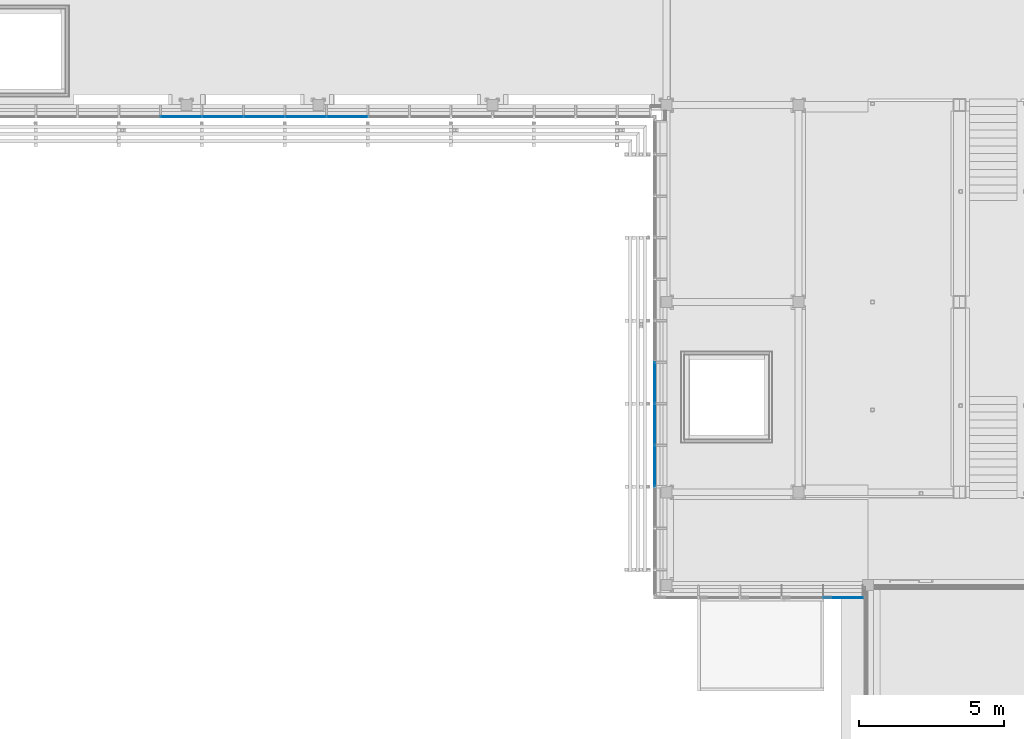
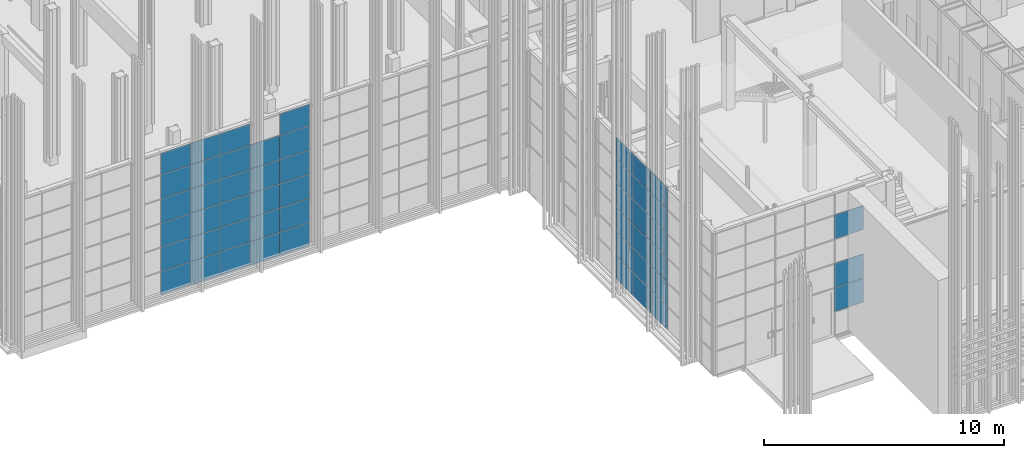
# One storey, part 52 of 260: 50 plates, 1 element without a shape of its own.
"""IFC2X3 building model written with IfcOpenShell, lengths in millimetres."""

from ifc_helpers import new_model, entity, si_unit, converted_unit, derived_unit, money_unit, direction, frame, origin_with_axes, place, context, subcontext, project, spatial, faceted_brep, source, transform, mapped, material, type_object, element, aggregate, save


model = new_model("IFC2X3")

# Units and contexts
model_context = context("Model", 3, precision=0.01, world=origin_with_axes(), true_north=direction((0.0, 1.0)))
body_context = subcontext(model_context, "Body", "Model", "MODEL_VIEW")
ifc_project = project(units=[si_unit("LENGTHUNIT", "METRE", prefix="MILLI"), si_unit("AREAUNIT", "SQUARE_METRE"), si_unit("VOLUMEUNIT", "CUBIC_METRE"), converted_unit("PLANEANGLEUNIT", "DEGREE", entity("IfcPlaneAngleMeasure", 0.0174532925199), si_unit("PLANEANGLEUNIT", "RADIAN"), dimensions=[0, 0, 0, 0, 0, 0, 0]), money_unit("EUR"), converted_unit("TIMEUNIT", "Year", entity("IfcTimeMeasure", 31556926.0), si_unit("TIMEUNIT", "SECOND"), dimensions=[0, 0, 1, 0, 0, 0, 0]), si_unit("MASSUNIT", "GRAM", prefix="KILO"), si_unit("THERMODYNAMICTEMPERATUREUNIT", "DEGREE_CELSIUS"), si_unit("LUMINOUSINTENSITYUNIT", "LUMEN"), si_unit("ENERGYUNIT", "JOULE", prefix="MEGA"), derived_unit("THERMALCONDUCTANCEUNIT", [(si_unit("POWERUNIT", "WATT"), 1), (si_unit("LENGTHUNIT", "METRE"), -1), (si_unit("THERMODYNAMICTEMPERATUREUNIT", "KELVIN"), -1)]), derived_unit("SPECIFICHEATCAPACITYUNIT", [(si_unit("ENERGYUNIT", "JOULE"), 1), (si_unit("MASSUNIT", "GRAM", prefix="KILO"), -1), (si_unit("THERMODYNAMICTEMPERATUREUNIT", "KELVIN"), -1)]), derived_unit("MASSDENSITYUNIT", [(si_unit("MASSUNIT", "GRAM", prefix="KILO"), 1), (si_unit("VOLUMEUNIT", "CUBIC_METRE"), -1)])], contexts=[model_context])

# Site, building, storey
site_placement = place(None, origin_with_axes())
site = spatial("IfcSite", under=ifc_project, at=site_placement, Name="Kolde pst 67a", CompositionType="ELEMENT")
building_placement = place(site_placement, origin_with_axes())
building = spatial("IfcBuilding", under=site, at=building_placement, Name="Riigigümnaasium", CompositionType="ELEMENT")
storey_placement = place(building_placement, origin_with_axes())
storey = spatial("IfcBuildingStorey", under=building, at=storey_placement, Name="1. korrus", CompositionType="ELEMENT", Elevation=0.0)

# Curtain wall, plates
curtain_wall_type = type_object("IfcCurtainWallType", Name="Curtain Wall Type", PredefinedType="NOTDEFINED")
curtain_wall_placement = place(storey_placement, frame((47829.9854655, 8727.77020058, -0.000749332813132), z_axis=(0.0, 0.0, 1.0), x_axis=(1.0, 0.0, 0.0)))
curtain_wall = element("IfcCurtainWall", 1, at=curtain_wall_placement, inside=storey, type_object=curtain_wall_type, Name="KLAASFASSAAD")
ifc_material = material(Name="_KLAAS - kirgas")
plate_type_1 = type_object("IfcPlateType", Name="Main Panel 72 x 1195 x 33", PredefinedType="NOTDEFINED")
shared_shape_1 = source(origin_with_axes(), body_context, "Body", "Brep", [
    faceted_brep([(-2777.75197811, 1225.00067812, -16.5), (-2777.75197811, 1225.00067812, 16.5), (-1430.00000069, 1225.00067812, 16.5), (-1430.00000069, 1225.00067812, -16.5), (-2777.75199941, 30.0000019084, -16.5), (-2777.75199941, 30.0000019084, 16.5), (-1430.00000069, 30.0000019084, 16.5), (-1357.75198011, 30.0000019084, 16.5), (-1357.75198011, 1225.00067812, 16.5), (-1357.75198011, 1225.00067812, -16.5), (-1357.75198011, 30.0000019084, -16.5), (-1430.00000069, 30.0000019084, -16.5)], [[[0, 1, 2, 3]], [[4, 5, 1, 0]], [[1, 5, 6, 7, 8, 2]], [[3, 2, 8, 9]], [[0, 3, 9, 10, 11, 4]], [[11, 6, 5, 4]], [[10, 7, 6, 11]], [[9, 8, 7, 10]]]),
])
plate_1_placement = place(curtain_wall_placement, frame((-2.60832422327e-06, 2861.20707608, 615.000374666), z_axis=(0.0, 0.0, 1.0), x_axis=(9.1161639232e-10, -1.0, 0.0)))
plate_1 = element("IfcPlate", 2, at=plate_1_placement, type_object=plate_type_1, material=ifc_material, Name="RF PANEEL PEAMINE-010", context=body_context, shape_type="MappedRepresentation", body=[
    mapped(shared_shape_1, transform((1855.16799141, 0.0, -615.000374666), x_axis=(1.0, 0.0, 0.0), y_axis=(0.0, 0.0, 1.0), z_axis=(0.0, -1.0, 0.0))),
])
plate_2_placement = place(curtain_wall_placement, frame((-3.91193566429e-06, 4291.2070799, 615.000374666), z_axis=(0.0, 0.0, 1.0), x_axis=(9.11611423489e-10, -1.0, 0.0)))
plate_2 = element("IfcPlate", 3, at=plate_2_placement, type_object=plate_type_1, material=ifc_material, Name="RF PANEEL PEAMINE-010", context=body_context, shape_type="MappedRepresentation", body=[
    mapped(shared_shape_1, transform((1855.16799523, 0.0, -615.000374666), x_axis=(1.0, 0.0, 0.0), y_axis=(0.0, 0.0, 1.0), z_axis=(0.0, -1.0, 0.0))),
])
plate_3_placement = place(curtain_wall_placement, frame((-5.21555421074e-06, 5721.20708506, 615.000374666), z_axis=(0.0, 0.0, 1.0), x_axis=(9.1161639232e-10, -1.0, 0.0)))
plate_3 = element("IfcPlate", 4, at=plate_3_placement, type_object=plate_type_1, material=ifc_material, Name="RF PANEEL PEAMINE-010", context=body_context, shape_type="MappedRepresentation", body=[
    mapped(shared_shape_1, transform((1855.16800039, 0.0, -615.000374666), x_axis=(1.0, 0.0, 0.0), y_axis=(0.0, 0.0, 1.0), z_axis=(0.0, -1.0, 0.0))),
])
plate_type_2 = type_object("IfcPlateType", Name="Main Panel 72 x 1220 x 33", PredefinedType="NOTDEFINED")
shared_shape_2 = source(origin_with_axes(), body_context, "Body", "Brep", [
    faceted_brep([(-2777.75198662, 1225.00000656, -16.5), (-2777.75198662, 1225.00000656, 16.5), (-1430.0, 1225.00000656, 16.5), (-1430.0, 1225.00000656, -16.5), (-2777.75198662, 4.99999672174, -16.5), (-2777.75198662, 4.99999672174, 16.5), (-1430.0, 4.99999672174, 16.5), (-1357.75198007, 4.99999672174, 16.5), (-1357.75198007, 1225.00000656, 16.5), (-1357.75198007, 1225.00000656, -16.5), (-1357.75198007, 4.99999672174, -16.5), (-1430.0, 4.99999672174, -16.5)], [[[0, 1, 2, 3]], [[4, 5, 1, 0]], [[1, 5, 6, 7, 8, 2]], [[3, 2, 8, 9]], [[0, 3, 9, 10, 11, 4]], [[11, 6, 5, 4]], [[10, 7, 6, 11]], [[9, 8, 7, 10]]]),
])
plate_4_placement = place(curtain_wall_placement, frame((-2.60832422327e-06, 2861.20707357, 1845.00074933), z_axis=(0.0, 0.0, 1.0), x_axis=(9.1161639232e-10, -1.0, 0.0)))
plate_4 = element("IfcPlate", 5, at=plate_4_placement, type_object=plate_type_2, material=ifc_material, Name="RF PANEEL PEAMINE-010", context=body_context, shape_type="MappedRepresentation", body=[
    mapped(shared_shape_2, transform((1855.1679889, 0.0, -615.0), x_axis=(1.0, 0.0, 0.0), y_axis=(0.0, 0.0, 1.0), z_axis=(0.0, -1.0, 0.0))),
])
plate_5_placement = place(curtain_wall_placement, frame((-2.60832422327e-06, 2861.20707357, 3075.00074933), z_axis=(0.0, 0.0, 1.0), x_axis=(9.1161639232e-10, -1.0, 0.0)))
plate_5 = element("IfcPlate", 6, at=plate_5_placement, type_object=plate_type_2, material=ifc_material, Name="RF PANEEL PEAMINE-010", context=body_context, shape_type="MappedRepresentation", body=[
    mapped(shared_shape_2, transform((1855.1679889, 0.0, -615.0), x_axis=(1.0, 0.0, 0.0), y_axis=(0.0, 0.0, 1.0), z_axis=(0.0, -1.0, 0.0))),
])
plate_6_placement = place(curtain_wall_placement, frame((-3.91193566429e-06, 4291.20708067, 1845.00074933), z_axis=(0.0, 0.0, 1.0), x_axis=(9.11611423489e-10, -1.0, 0.0)))
plate_6 = element("IfcPlate", 7, at=plate_6_placement, type_object=plate_type_2, material=ifc_material, Name="RF PANEEL PEAMINE-010", context=body_context, shape_type="MappedRepresentation", body=[
    mapped(shared_shape_2, transform((1855.167996, 0.0, -615.0), x_axis=(1.0, 0.0, 0.0), y_axis=(0.0, 0.0, 1.0), z_axis=(0.0, -1.0, 0.0))),
])
plate_7_placement = place(curtain_wall_placement, frame((-3.91193566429e-06, 4291.20708067, 3075.00074933), z_axis=(0.0, 0.0, 1.0), x_axis=(9.11611423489e-10, -1.0, 0.0)))
plate_7 = element("IfcPlate", 8, at=plate_7_placement, type_object=plate_type_2, material=ifc_material, Name="RF PANEEL PEAMINE-010", context=body_context, shape_type="MappedRepresentation", body=[
    mapped(shared_shape_2, transform((1855.167996, 0.0, -615.0), x_axis=(1.0, 0.0, 0.0), y_axis=(0.0, 0.0, 1.0), z_axis=(0.0, -1.0, 0.0))),
])
plate_8_placement = place(curtain_wall_placement, frame((-5.21555421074e-06, 5721.20708777, 1845.00074933), z_axis=(0.0, 0.0, 1.0), x_axis=(9.1161639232e-10, -1.0, 0.0)))
plate_8 = element("IfcPlate", 9, at=plate_8_placement, type_object=plate_type_2, material=ifc_material, Name="RF PANEEL PEAMINE-010", context=body_context, shape_type="MappedRepresentation", body=[
    mapped(shared_shape_2, transform((1855.1680031, 0.0, -615.0), x_axis=(1.0, 0.0, 0.0), y_axis=(0.0, 0.0, 1.0), z_axis=(0.0, -1.0, 0.0))),
])
plate_9_placement = place(curtain_wall_placement, frame((-5.21555421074e-06, 5721.20708777, 3075.00074933), z_axis=(0.0, 0.0, 1.0), x_axis=(9.1161639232e-10, -1.0, 0.0)))
plate_9 = element("IfcPlate", 10, at=plate_9_placement, type_object=plate_type_2, material=ifc_material, Name="RF PANEEL PEAMINE-010", context=body_context, shape_type="MappedRepresentation", body=[
    mapped(shared_shape_2, transform((1855.1680031, 0.0, -615.0), x_axis=(1.0, 0.0, 0.0), y_axis=(0.0, 0.0, 1.0), z_axis=(0.0, -1.0, 0.0))),
])
plate_10_placement = place(curtain_wall_placement, frame((-2.60832422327e-06, 2861.20707712, 5535.00074933), z_axis=(0.0, 0.0, 1.0), x_axis=(9.1161639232e-10, -1.0, 0.0)))
plate_10 = element("IfcPlate", 11, at=plate_10_placement, type_object=plate_type_2, material=ifc_material, Name="RF PANEEL PEAMINE-049", context=body_context, shape_type="MappedRepresentation", body=[
    mapped(shared_shape_2, transform((1855.16799245, 0.0, -615.0), x_axis=(1.0, 0.0, 0.0), y_axis=(0.0, 0.0, 1.0), z_axis=(0.0, -1.0, 0.0))),
])
plate_11_placement = place(curtain_wall_placement, frame((-3.91193566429e-06, 4291.20708067, 5535.00074933), z_axis=(0.0, 0.0, 1.0), x_axis=(9.11611423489e-10, -1.0, 0.0)))
plate_11 = element("IfcPlate", 12, at=plate_11_placement, type_object=plate_type_2, material=ifc_material, Name="RF PANEEL PEAMINE-051", context=body_context, shape_type="MappedRepresentation", body=[
    mapped(shared_shape_2, transform((1855.167996, 0.0, -615.0), x_axis=(1.0, 0.0, 0.0), y_axis=(0.0, 0.0, 1.0), z_axis=(0.0, -1.0, 0.0))),
])
plate_12_placement = place(curtain_wall_placement, frame((-5.21555421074e-06, 5721.20708067, 5535.00074933), z_axis=(0.0, 0.0, 1.0), x_axis=(9.1161639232e-10, -1.0, 0.0)))
plate_12 = element("IfcPlate", 13, at=plate_12_placement, type_object=plate_type_2, material=ifc_material, Name="RF PANEEL PEAMINE-053", context=body_context, shape_type="MappedRepresentation", body=[
    mapped(shared_shape_2, transform((1855.167996, 0.0, -615.0), x_axis=(1.0, 0.0, 0.0), y_axis=(0.0, 0.0, 1.0), z_axis=(0.0, -1.0, 0.0))),
])
plate_13_placement = place(curtain_wall_placement, frame((-5.21555421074e-06, 5721.20708777, 4305.00074933), z_axis=(0.0, 0.0, 1.0), x_axis=(9.1161639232e-10, -1.0, 0.0)))
plate_13 = element("IfcPlate", 14, at=plate_13_placement, type_object=plate_type_2, material=ifc_material, Name="RF PANEEL PEAMINE-037", context=body_context, shape_type="MappedRepresentation", body=[
    mapped(shared_shape_2, transform((1855.1680031, 0.0, -615.0), x_axis=(1.0, 0.0, 0.0), y_axis=(0.0, 0.0, 1.0), z_axis=(0.0, -1.0, 0.0))),
])
plate_14_placement = place(curtain_wall_placement, frame((-3.91193566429e-06, 4291.20708422, 4305.00074933), z_axis=(0.0, 0.0, 1.0), x_axis=(9.11611423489e-10, -1.0, 0.0)))
plate_14 = element("IfcPlate", 15, at=plate_14_placement, type_object=plate_type_2, material=ifc_material, Name="RF PANEEL PEAMINE-036", context=body_context, shape_type="MappedRepresentation", body=[
    mapped(shared_shape_2, transform((1855.16799955, 0.0, -615.0), x_axis=(1.0, 0.0, 0.0), y_axis=(0.0, 0.0, 1.0), z_axis=(0.0, -1.0, 0.0))),
])
plate_15_placement = place(curtain_wall_placement, frame((-2.60832422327e-06, 2861.20707712, 4305.00074933), z_axis=(0.0, 0.0, 1.0), x_axis=(9.1161639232e-10, -1.0, 0.0)))
plate_15 = element("IfcPlate", 16, at=plate_15_placement, type_object=plate_type_2, material=ifc_material, Name="RF PANEEL PEAMINE-035", context=body_context, shape_type="MappedRepresentation", body=[
    mapped(shared_shape_2, transform((1855.16799245, 0.0, -615.0), x_axis=(1.0, 0.0, 0.0), y_axis=(0.0, 0.0, 1.0), z_axis=(0.0, -1.0, 0.0))),
])
plate_type_3 = type_object("IfcPlateType", Name="Main Panel 1086 x 1220 x 33", PredefinedType="NOTDEFINED")
shared_shape_3 = source(origin_with_axes(), body_context, "Body", "Brep", [
    faceted_brep([(-1727.90832679, 1224.99999401, -16.5), (-1727.90832679, 1224.99999401, 16.5), (-1429.99999361, 1224.99999401, 16.5), (-1429.99999361, 1224.99999401, -16.5), (-1727.90834793, 5.00000506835, -16.5), (-1727.90834793, 5.00000506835, 16.5), (-1429.99999361, 5.00000506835, 16.5), (-343.684158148, 5.00000506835, 16.5), (-343.684158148, 1224.99999401, 16.5), (-343.684158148, 1224.99999401, -16.5), (-343.684158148, 5.00000506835, -16.5), (-1429.99999361, 5.00000506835, -16.5)], [[[0, 1, 2, 3]], [[4, 5, 1, 0]], [[1, 5, 6, 7, 8, 2]], [[3, 2, 8, 9]], [[0, 3, 9, 10, 11, 4]], [[11, 6, 5, 4]], [[10, 7, 6, 11]], [[9, 8, 7, 10]]]),
])
plate_16_placement = place(curtain_wall_placement, frame((6374.70142058, -1457.77182686, 1845.00074933), z_axis=(0.0, 0.0, 1.0), x_axis=(1.0, -2.70881141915e-07, 0.0)))
plate_16 = element("IfcPlate", 17, at=plate_16_placement, type_object=plate_type_3, material=ifc_material, Name="RF PANEEL PEAMINE-010", context=body_context, shape_type="MappedRepresentation", body=[
    mapped(shared_shape_3, transform((1158.86416374, 0.0, -615.0), x_axis=(1.0, 1.88106250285e-10, 0.0), y_axis=(0.0, 0.0, 1.0), z_axis=(1.88106250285e-10, -1.0, 0.0))),
])
plate_17_placement = place(curtain_wall_placement, frame((6374.70142413, -1457.77182686, 3075.00074933), z_axis=(0.0, 0.0, 1.0), x_axis=(1.0, -2.70881141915e-07, 0.0)))
plate_17 = element("IfcPlate", 18, at=plate_17_placement, type_object=plate_type_3, material=ifc_material, Name="RF PANEEL PEAMINE-010", context=body_context, shape_type="MappedRepresentation", body=[
    mapped(shared_shape_3, transform((1158.86416019, 0.0, -615.0), x_axis=(1.0, 1.88106250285e-10, 0.0), y_axis=(0.0, 0.0, 1.0), z_axis=(1.88106250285e-10, -1.0, 0.0))),
])
plate_18_placement = place(curtain_wall_placement, frame((6374.70142058, -1457.77182686, 5535.00074933), z_axis=(0.0, 0.0, 1.0), x_axis=(1.0, -2.70881141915e-07, 0.0)))
plate_18 = element("IfcPlate", 19, at=plate_18_placement, type_object=plate_type_3, material=ifc_material, Name="RF PANEEL PEAMINE-022", context=body_context, shape_type="MappedRepresentation", body=[
    mapped(shared_shape_3, transform((1158.86416374, 0.0, -615.0), x_axis=(1.0, 1.88106250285e-10, 0.0), y_axis=(0.0, 0.0, 1.0), z_axis=(1.88106250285e-10, -1.0, 0.0))),
])
plate_type_4 = type_object("IfcPlateType", Name="Main Panel 1420 x 1195 x 33", PredefinedType="NOTDEFINED")
shared_shape_4 = source(origin_with_axes(), body_context, "Body", "Brep", [
    faceted_brep([(-1425.00000328, 1225.00045404, -16.5), (-1425.00000328, 1225.00045404, 16.5), (-4.99999672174, 1225.00045404, 16.5), (-4.99999672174, 1225.00045404, -16.5), (-1425.00000328, 30.0000016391, -16.5), (-1425.00000328, 30.0000016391, 16.5), (-4.99999672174, 30.0000016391, 16.5), (-4.99999672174, 30.0000016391, -16.5)], [[[0, 1, 2, 3]], [[4, 5, 1, 0]], [[1, 5, 6, 2]], [[3, 2, 6, 7]], [[0, 3, 7, 4]], [[7, 6, 5, 4]]]),
])
plate_19_placement = place(curtain_wall_placement, frame((-10587.4150636, 15102.3507558, 615.000517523), z_axis=(0.0, 0.0, 1.0), x_axis=(0.999999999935, -1.1410815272e-05, 0.0)))
plate_19 = element("IfcPlate", 20, at=plate_19_placement, type_object=plate_type_4, material=ifc_material, Name="RF PANEEL PEAMINE-125", context=body_context, shape_type="MappedRepresentation", body=[
    mapped(shared_shape_4, transform((715.0, 0.0, -615.00023181), x_axis=(1.0, 0.0, 0.0), y_axis=(0.0, 0.0, 1.0), z_axis=(0.0, -1.0, 0.0))),
])
plate_20_placement = place(curtain_wall_placement, frame((-12017.4150635, 15102.3670733, 615.000517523), z_axis=(0.0, 0.0, 1.0), x_axis=(0.999999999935, -1.14108152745e-05, 0.0)))
plate_20 = element("IfcPlate", 21, at=plate_20_placement, type_object=plate_type_4, material=ifc_material, Name="RF PANEEL PEAMINE-131", context=body_context, shape_type="MappedRepresentation", body=[
    mapped(shared_shape_4, transform((715.0, 0.0, -615.00023181), x_axis=(1.0, 0.0, 0.0), y_axis=(0.0, 0.0, 1.0), z_axis=(0.0, -1.0, 0.0))),
])
plate_21_placement = place(curtain_wall_placement, frame((-13447.4150634, 15102.3833908, 615.000517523), z_axis=(0.0, 0.0, 1.0), x_axis=(0.999999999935, -1.1410815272e-05, 0.0)))
plate_21 = element("IfcPlate", 22, at=plate_21_placement, type_object=plate_type_4, material=ifc_material, Name="RF PANEEL PEAMINE-137", context=body_context, shape_type="MappedRepresentation", body=[
    mapped(shared_shape_4, transform((715.0, 0.0, -615.00023181), x_axis=(1.0, 0.0, 0.0), y_axis=(0.0, 0.0, 1.0), z_axis=(0.0, -1.0, 0.0))),
])
plate_22_placement = place(curtain_wall_placement, frame((-14877.4150634, 15102.3997082, 615.000517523), z_axis=(0.0, 0.0, 1.0), x_axis=(0.999999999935, -1.14108152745e-05, 0.0)))
plate_22 = element("IfcPlate", 23, at=plate_22_placement, type_object=plate_type_4, material=ifc_material, Name="RF PANEEL PEAMINE-143", context=body_context, shape_type="MappedRepresentation", body=[
    mapped(shared_shape_4, transform((715.0, 0.0, -615.00023181), x_axis=(1.0, 0.0, 0.0), y_axis=(0.0, 0.0, 1.0), z_axis=(0.0, -1.0, 0.0))),
])
plate_23_placement = place(curtain_wall_placement, frame((-16307.4150633, 15102.4160257, 615.000517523), z_axis=(0.0, 0.0, 1.0), x_axis=(0.999999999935, -1.1410815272e-05, 0.0)))
plate_23 = element("IfcPlate", 24, at=plate_23_placement, type_object=plate_type_4, material=ifc_material, Name="RF PANEEL PEAMINE-149", context=body_context, shape_type="MappedRepresentation", body=[
    mapped(shared_shape_4, transform((715.0, 0.0, -615.00023181), x_axis=(1.0, 0.0, 0.0), y_axis=(0.0, 0.0, 1.0), z_axis=(0.0, -1.0, 0.0))),
])
plate_type_5 = type_object("IfcPlateType", Name="Main Panel 1420 x 1220 x 33", PredefinedType="NOTDEFINED")
shared_shape_5 = source(origin_with_axes(), body_context, "Body", "Brep", [
    faceted_brep([(-1425.00000328, 1225.00000656, -16.5), (-1425.00000328, 1225.00000656, 16.5), (-4.99999672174, 1225.00000656, 16.5), (-4.99999672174, 1225.00000656, -16.5), (-1425.00000328, 4.99999672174, -16.5), (-1425.00000328, 4.99999672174, 16.5), (-4.99999672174, 4.99999672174, 16.5), (-4.99999672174, 4.99999672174, -16.5)], [[[0, 1, 2, 3]], [[4, 5, 1, 0]], [[1, 5, 6, 2]], [[3, 2, 6, 7]], [[0, 3, 7, 4]], [[7, 6, 5, 4]]]),
])
plate_24_placement = place(curtain_wall_placement, frame((-10587.4150636, 15102.3507558, 1845.00074933), z_axis=(0.0, 0.0, 1.0), x_axis=(0.999999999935, -1.1410815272e-05, 0.0)))
plate_24 = element("IfcPlate", 25, at=plate_24_placement, type_object=plate_type_5, material=ifc_material, Name="RF PANEEL PEAMINE-126", context=body_context, shape_type="MappedRepresentation", body=[
    mapped(shared_shape_5, transform((715.0, 0.0, -615.0), x_axis=(1.0, 0.0, 0.0), y_axis=(0.0, 0.0, 1.0), z_axis=(0.0, -1.0, 0.0))),
])
plate_25_placement = place(curtain_wall_placement, frame((-10587.4150636, 15102.3507558, 3075.00074933), z_axis=(0.0, 0.0, 1.0), x_axis=(0.999999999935, -1.1410815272e-05, 0.0)))
plate_25 = element("IfcPlate", 26, at=plate_25_placement, type_object=plate_type_5, material=ifc_material, Name="RF PANEEL PEAMINE-127", context=body_context, shape_type="MappedRepresentation", body=[
    mapped(shared_shape_5, transform((715.0, 0.0, -615.0), x_axis=(1.0, 0.0, 0.0), y_axis=(0.0, 0.0, 1.0), z_axis=(0.0, -1.0, 0.0))),
])
plate_26_placement = place(curtain_wall_placement, frame((-10587.4150636, 15102.3507558, 4305.00074933), z_axis=(0.0, 0.0, 1.0), x_axis=(0.999999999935, -1.1410815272e-05, 0.0)))
plate_26 = element("IfcPlate", 27, at=plate_26_placement, type_object=plate_type_5, material=ifc_material, Name="RF PANEEL PEAMINE-128", context=body_context, shape_type="MappedRepresentation", body=[
    mapped(shared_shape_5, transform((715.0, 0.0, -615.0), x_axis=(1.0, 0.0, 0.0), y_axis=(0.0, 0.0, 1.0), z_axis=(0.0, -1.0, 0.0))),
])
plate_27_placement = place(curtain_wall_placement, frame((-10587.4150636, 15102.3507558, 5535.00074933), z_axis=(0.0, 0.0, 1.0), x_axis=(0.999999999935, -1.1410815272e-05, 0.0)))
plate_27 = element("IfcPlate", 28, at=plate_27_placement, type_object=plate_type_5, material=ifc_material, Name="RF PANEEL PEAMINE-129", context=body_context, shape_type="MappedRepresentation", body=[
    mapped(shared_shape_5, transform((715.0, 0.0, -615.0), x_axis=(1.0, 0.0, 0.0), y_axis=(0.0, 0.0, 1.0), z_axis=(0.0, -1.0, 0.0))),
])
plate_28_placement = place(curtain_wall_placement, frame((-12017.4150635, 15102.3670733, 1845.00074933), z_axis=(0.0, 0.0, 1.0), x_axis=(0.999999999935, -1.14108152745e-05, 0.0)))
plate_28 = element("IfcPlate", 29, at=plate_28_placement, type_object=plate_type_5, material=ifc_material, Name="RF PANEEL PEAMINE-132", context=body_context, shape_type="MappedRepresentation", body=[
    mapped(shared_shape_5, transform((715.0, 0.0, -615.0), x_axis=(1.0, 0.0, 0.0), y_axis=(0.0, 0.0, 1.0), z_axis=(0.0, -1.0, 0.0))),
])
plate_29_placement = place(curtain_wall_placement, frame((-12017.4150635, 15102.3670733, 3075.00074933), z_axis=(0.0, 0.0, 1.0), x_axis=(0.999999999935, -1.14108152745e-05, 0.0)))
plate_29 = element("IfcPlate", 30, at=plate_29_placement, type_object=plate_type_5, material=ifc_material, Name="RF PANEEL PEAMINE-133", context=body_context, shape_type="MappedRepresentation", body=[
    mapped(shared_shape_5, transform((715.0, 0.0, -615.0), x_axis=(1.0, 0.0, 0.0), y_axis=(0.0, 0.0, 1.0), z_axis=(0.0, -1.0, 0.0))),
])
plate_30_placement = place(curtain_wall_placement, frame((-12017.4150635, 15102.3670733, 4305.00074933), z_axis=(0.0, 0.0, 1.0), x_axis=(0.999999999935, -1.14108152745e-05, 0.0)))
plate_30 = element("IfcPlate", 31, at=plate_30_placement, type_object=plate_type_5, material=ifc_material, Name="RF PANEEL PEAMINE-134", context=body_context, shape_type="MappedRepresentation", body=[
    mapped(shared_shape_5, transform((715.0, 0.0, -615.0), x_axis=(1.0, 0.0, 0.0), y_axis=(0.0, 0.0, 1.0), z_axis=(0.0, -1.0, 0.0))),
])
plate_31_placement = place(curtain_wall_placement, frame((-12017.4150635, 15102.3670733, 5535.00074933), z_axis=(0.0, 0.0, 1.0), x_axis=(0.999999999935, -1.14108152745e-05, 0.0)))
plate_31 = element("IfcPlate", 32, at=plate_31_placement, type_object=plate_type_5, material=ifc_material, Name="RF PANEEL PEAMINE-135", context=body_context, shape_type="MappedRepresentation", body=[
    mapped(shared_shape_5, transform((715.0, 0.0, -615.0), x_axis=(1.0, 0.0, 0.0), y_axis=(0.0, 0.0, 1.0), z_axis=(0.0, -1.0, 0.0))),
])
plate_32_placement = place(curtain_wall_placement, frame((-13447.4150634, 15102.3833908, 1845.00074933), z_axis=(0.0, 0.0, 1.0), x_axis=(0.999999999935, -1.1410815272e-05, 0.0)))
plate_32 = element("IfcPlate", 33, at=plate_32_placement, type_object=plate_type_5, material=ifc_material, Name="RF PANEEL PEAMINE-138", context=body_context, shape_type="MappedRepresentation", body=[
    mapped(shared_shape_5, transform((715.0, 0.0, -615.0), x_axis=(1.0, 0.0, 0.0), y_axis=(0.0, 0.0, 1.0), z_axis=(0.0, -1.0, 0.0))),
])
plate_33_placement = place(curtain_wall_placement, frame((-13447.4150634, 15102.3833908, 3075.00074933), z_axis=(0.0, 0.0, 1.0), x_axis=(0.999999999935, -1.1410815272e-05, 0.0)))
plate_33 = element("IfcPlate", 34, at=plate_33_placement, type_object=plate_type_5, material=ifc_material, Name="RF PANEEL PEAMINE-139", context=body_context, shape_type="MappedRepresentation", body=[
    mapped(shared_shape_5, transform((715.0, 0.0, -615.0), x_axis=(1.0, 0.0, 0.0), y_axis=(0.0, 0.0, 1.0), z_axis=(0.0, -1.0, 0.0))),
])
plate_34_placement = place(curtain_wall_placement, frame((-13447.4150634, 15102.3833908, 4305.00074933), z_axis=(0.0, 0.0, 1.0), x_axis=(0.999999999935, -1.1410815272e-05, 0.0)))
plate_34 = element("IfcPlate", 35, at=plate_34_placement, type_object=plate_type_5, material=ifc_material, Name="RF PANEEL PEAMINE-140", context=body_context, shape_type="MappedRepresentation", body=[
    mapped(shared_shape_5, transform((715.0, 0.0, -615.0), x_axis=(1.0, 0.0, 0.0), y_axis=(0.0, 0.0, 1.0), z_axis=(0.0, -1.0, 0.0))),
])
plate_35_placement = place(curtain_wall_placement, frame((-13447.4150634, 15102.3833908, 5535.00074933), z_axis=(0.0, 0.0, 1.0), x_axis=(0.999999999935, -1.1410815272e-05, 0.0)))
plate_35 = element("IfcPlate", 36, at=plate_35_placement, type_object=plate_type_5, material=ifc_material, Name="RF PANEEL PEAMINE-141", context=body_context, shape_type="MappedRepresentation", body=[
    mapped(shared_shape_5, transform((715.0, 0.0, -615.0), x_axis=(1.0, 0.0, 0.0), y_axis=(0.0, 0.0, 1.0), z_axis=(0.0, -1.0, 0.0))),
])
plate_36_placement = place(curtain_wall_placement, frame((-14877.4150634, 15102.3997082, 1845.00074933), z_axis=(0.0, 0.0, 1.0), x_axis=(0.999999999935, -1.14108152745e-05, 0.0)))
plate_36 = element("IfcPlate", 37, at=plate_36_placement, type_object=plate_type_5, material=ifc_material, Name="RF PANEEL PEAMINE-144", context=body_context, shape_type="MappedRepresentation", body=[
    mapped(shared_shape_5, transform((715.0, 0.0, -615.0), x_axis=(1.0, 0.0, 0.0), y_axis=(0.0, 0.0, 1.0), z_axis=(0.0, -1.0, 0.0))),
])
plate_37_placement = place(curtain_wall_placement, frame((-14877.4150634, 15102.3997082, 3075.00074933), z_axis=(0.0, 0.0, 1.0), x_axis=(0.999999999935, -1.14108152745e-05, 0.0)))
plate_37 = element("IfcPlate", 38, at=plate_37_placement, type_object=plate_type_5, material=ifc_material, Name="RF PANEEL PEAMINE-145", context=body_context, shape_type="MappedRepresentation", body=[
    mapped(shared_shape_5, transform((715.0, 0.0, -615.0), x_axis=(1.0, 0.0, 0.0), y_axis=(0.0, 0.0, 1.0), z_axis=(0.0, -1.0, 0.0))),
])
plate_38_placement = place(curtain_wall_placement, frame((-14877.4150634, 15102.3997082, 4305.00074933), z_axis=(0.0, 0.0, 1.0), x_axis=(0.999999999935, -1.14108152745e-05, 0.0)))
plate_38 = element("IfcPlate", 39, at=plate_38_placement, type_object=plate_type_5, material=ifc_material, Name="RF PANEEL PEAMINE-146", context=body_context, shape_type="MappedRepresentation", body=[
    mapped(shared_shape_5, transform((715.0, 0.0, -615.0), x_axis=(1.0, 0.0, 0.0), y_axis=(0.0, 0.0, 1.0), z_axis=(0.0, -1.0, 0.0))),
])
plate_39_placement = place(curtain_wall_placement, frame((-14877.4150634, 15102.3997082, 5535.00074933), z_axis=(0.0, 0.0, 1.0), x_axis=(0.999999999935, -1.14108152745e-05, 0.0)))
plate_39 = element("IfcPlate", 40, at=plate_39_placement, type_object=plate_type_5, material=ifc_material, Name="RF PANEEL PEAMINE-147", context=body_context, shape_type="MappedRepresentation", body=[
    mapped(shared_shape_5, transform((715.0, 0.0, -615.0), x_axis=(1.0, 0.0, 0.0), y_axis=(0.0, 0.0, 1.0), z_axis=(0.0, -1.0, 0.0))),
])
plate_40_placement = place(curtain_wall_placement, frame((-16307.4150633, 15102.4160257, 1845.00074933), z_axis=(0.0, 0.0, 1.0), x_axis=(0.999999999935, -1.1410815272e-05, 0.0)))
plate_40 = element("IfcPlate", 41, at=plate_40_placement, type_object=plate_type_5, material=ifc_material, Name="RF PANEEL PEAMINE-150", context=body_context, shape_type="MappedRepresentation", body=[
    mapped(shared_shape_5, transform((715.0, 0.0, -615.0), x_axis=(1.0, 0.0, 0.0), y_axis=(0.0, 0.0, 1.0), z_axis=(0.0, -1.0, 0.0))),
])
plate_41_placement = place(curtain_wall_placement, frame((-16307.4150633, 15102.4160257, 3075.00074933), z_axis=(0.0, 0.0, 1.0), x_axis=(0.999999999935, -1.1410815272e-05, 0.0)))
plate_41 = element("IfcPlate", 42, at=plate_41_placement, type_object=plate_type_5, material=ifc_material, Name="RF PANEEL PEAMINE-151", context=body_context, shape_type="MappedRepresentation", body=[
    mapped(shared_shape_5, transform((715.0, 0.0, -615.0), x_axis=(1.0, 0.0, 0.0), y_axis=(0.0, 0.0, 1.0), z_axis=(0.0, -1.0, 0.0))),
])
plate_42_placement = place(curtain_wall_placement, frame((-16307.4150633, 15102.4160257, 4305.00074933), z_axis=(0.0, 0.0, 1.0), x_axis=(0.999999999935, -1.1410815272e-05, 0.0)))
plate_42 = element("IfcPlate", 43, at=plate_42_placement, type_object=plate_type_5, material=ifc_material, Name="RF PANEEL PEAMINE-152", context=body_context, shape_type="MappedRepresentation", body=[
    mapped(shared_shape_5, transform((715.0, 0.0, -615.0), x_axis=(1.0, 0.0, 0.0), y_axis=(0.0, 0.0, 1.0), z_axis=(0.0, -1.0, 0.0))),
])
plate_43_placement = place(curtain_wall_placement, frame((-16307.4150633, 15102.4160257, 5535.00074933), z_axis=(0.0, 0.0, 1.0), x_axis=(0.999999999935, -1.1410815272e-05, 0.0)))
plate_43 = element("IfcPlate", 44, at=plate_43_placement, type_object=plate_type_5, material=ifc_material, Name="RF PANEEL PEAMINE-153", context=body_context, shape_type="MappedRepresentation", body=[
    mapped(shared_shape_5, transform((715.0, 0.0, -615.0), x_axis=(1.0, 0.0, 0.0), y_axis=(0.0, 0.0, 1.0), z_axis=(0.0, -1.0, 0.0))),
])
plate_type_6 = type_object("IfcPlateType", Name="Main Panel 1420 x 1075 x 33", PredefinedType="NOTDEFINED")
shared_shape_6 = source(origin_with_axes(), body_context, "Body", "Brep", [
    faceted_brep([(-1425.00000328, 1079.99918535, -16.5), (-1425.00000328, 1079.99918535, 16.5), (-4.99999672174, 1079.99918535, 16.5), (-4.99999672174, 1079.99918535, -16.5), (-1425.00000328, 4.99999672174, -16.5), (-1425.00000328, 4.99999672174, 16.5), (-4.99999672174, 4.99999672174, 16.5), (-4.99999672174, 4.99999672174, -16.5)], [[[0, 1, 2, 3]], [[4, 5, 1, 0]], [[1, 5, 6, 2]], [[3, 2, 6, 7]], [[0, 3, 7, 4]], [[7, 6, 5, 4]]]),
])
plate_44_placement = place(curtain_wall_placement, frame((-10587.4150636, 15102.3507558, 6705.00033834), z_axis=(0.0, 0.0, 1.0), x_axis=(0.999999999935, -1.1410815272e-05, 0.0)))
plate_44 = element("IfcPlate", 45, at=plate_44_placement, type_object=plate_type_6, material=ifc_material, Name="RF PANEEL PEAMINE-166", context=body_context, shape_type="MappedRepresentation", body=[
    mapped(shared_shape_6, transform((715.0, 0.0, -554.99958901), x_axis=(1.0, 0.0, 0.0), y_axis=(0.0, 0.0, 1.0), z_axis=(0.0, -1.0, 0.0))),
])
plate_45_placement = place(curtain_wall_placement, frame((-13447.4150634, 15102.3833908, 6705.00033834), z_axis=(0.0, 0.0, 1.0), x_axis=(0.999999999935, -1.1410815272e-05, 0.0)))
plate_45 = element("IfcPlate", 46, at=plate_45_placement, type_object=plate_type_6, material=ifc_material, Name="RF PANEEL PEAMINE-084", context=body_context, shape_type="MappedRepresentation", body=[
    mapped(shared_shape_6, transform((715.0, 0.0, -554.99958901), x_axis=(1.0, 0.0, 0.0), y_axis=(0.0, 0.0, 1.0), z_axis=(0.0, -1.0, 0.0))),
])
plate_46_placement = place(curtain_wall_placement, frame((-14877.4150634, 15102.3997082, 6705.00033834), z_axis=(0.0, 0.0, 1.0), x_axis=(0.999999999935, -1.14108152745e-05, 0.0)))
plate_46 = element("IfcPlate", 47, at=plate_46_placement, type_object=plate_type_6, material=ifc_material, Name="RF PANEEL PEAMINE-124", context=body_context, shape_type="MappedRepresentation", body=[
    mapped(shared_shape_6, transform((715.0, 0.0, -554.99958901), x_axis=(1.0, 0.0, 0.0), y_axis=(0.0, 0.0, 1.0), z_axis=(0.0, -1.0, 0.0))),
])
plate_47_placement = place(curtain_wall_placement, frame((-16307.4150633, 15102.4160257, 6705.00033834), z_axis=(0.0, 0.0, 1.0), x_axis=(0.999999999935, -1.1410815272e-05, 0.0)))
plate_47 = element("IfcPlate", 48, at=plate_47_placement, type_object=plate_type_6, material=ifc_material, Name="RF PANEEL PEAMINE-112", context=body_context, shape_type="MappedRepresentation", body=[
    mapped(shared_shape_6, transform((715.0, 0.0, -554.99958901), x_axis=(1.0, 0.0, 0.0), y_axis=(0.0, 0.0, 1.0), z_axis=(0.0, -1.0, 0.0))),
])
plate_type_7 = type_object("IfcPlateType", Name="Main Panel 72 x 1075 x 33", PredefinedType="NOTDEFINED")
shared_shape_7 = source(origin_with_axes(), body_context, "Body", "Brep", [
    faceted_brep([(-2777.75196529, 1079.99919118, -16.5), (-2777.75196529, 1079.99919118, 16.5), (-1429.99999271, 1079.99919118, 16.5), (-1429.99999271, 1079.99919118, -16.5), (-2777.7519866, 4.9999967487, -16.5), (-2777.7519866, 4.9999967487, 16.5), (-1429.99999271, 4.9999967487, 16.5), (-1357.75199369, 4.9999967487, 16.5), (-1357.75197238, 1079.99919118, 16.5), (-1357.75197238, 1079.99919118, -16.5), (-1357.75199369, 4.9999967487, -16.5), (-1429.99999271, 4.9999967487, -16.5)], [[[0, 1, 2, 3]], [[4, 5, 1, 0]], [[1, 5, 6, 7, 8, 2]], [[3, 2, 8, 9]], [[0, 3, 9, 10, 11, 4]], [[11, 6, 5, 4]], [[10, 7, 6, 11]], [[9, 8, 7, 10]]]),
])
plate_48_placement = place(curtain_wall_placement, frame((-5.26399901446e-06, 5774.35307868, 6841.25023072), z_axis=(0.0, 0.0, 1.0), x_axis=(9.1161639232e-10, -1.0, 0.0)))
plate_48 = element("IfcPlate", 49, at=plate_48_placement, type_object=plate_type_7, material=ifc_material, Name="RF PANEEL PEAMINE-056", context=body_context, shape_type="MappedRepresentation", body=[
    mapped(shared_shape_7, transform((1908.31399401, 0.0, -691.249481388), x_axis=(1.0, 0.0, 0.0), y_axis=(0.0, 0.0, 1.0), z_axis=(0.0, -1.0, 0.0))),
])
plate_49_placement = place(curtain_wall_placement, frame((-3.96038046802e-06, 4344.3530763, 6841.25023072), z_axis=(0.0, 0.0, 1.0), x_axis=(9.11611423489e-10, -1.0, 0.0)))
plate_49 = element("IfcPlate", 50, at=plate_49_placement, type_object=plate_type_7, material=ifc_material, Name="RF PANEEL PEAMINE-054", context=body_context, shape_type="MappedRepresentation", body=[
    mapped(shared_shape_7, transform((1908.31399163, 0.0, -691.249481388), x_axis=(1.0, 0.0, 0.0), y_axis=(0.0, 0.0, 1.0), z_axis=(0.0, -1.0, 0.0))),
])
plate_50_placement = place(curtain_wall_placement, frame((-2.65677613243e-06, 2914.35307589, 6841.25023072), z_axis=(0.0, 0.0, 1.0), x_axis=(9.1161639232e-10, -1.0, 0.0)))
plate_50 = element("IfcPlate", 51, at=plate_50_placement, type_object=plate_type_7, material=ifc_material, Name="RF PANEEL PEAMINE-052", context=body_context, shape_type="MappedRepresentation", body=[
    mapped(shared_shape_7, transform((1908.31399123, 0.0, -691.249481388), x_axis=(1.0, 0.0, 0.0), y_axis=(0.0, 0.0, 1.0), z_axis=(0.0, -1.0, 0.0))),
])
aggregate(curtain_wall, [plate_1, plate_4, plate_5, plate_2, plate_6, plate_7, plate_3, plate_8, plate_9, plate_16, plate_17, plate_18, plate_10, plate_11, plate_12, plate_19, plate_24, plate_25, plate_26, plate_27, plate_20, plate_28, plate_29, plate_30, plate_31, plate_21, plate_32, plate_33, plate_34, plate_35, plate_22, plate_36, plate_37, plate_38, plate_39, plate_23, plate_40, plate_41, plate_42, plate_43, plate_44, plate_45, plate_46, plate_47, plate_13, plate_48, plate_14, plate_49, plate_15, plate_50])

save(model, "model.ifc")
